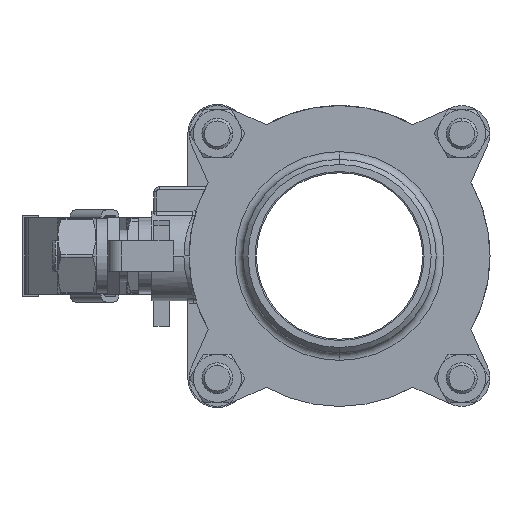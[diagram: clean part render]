
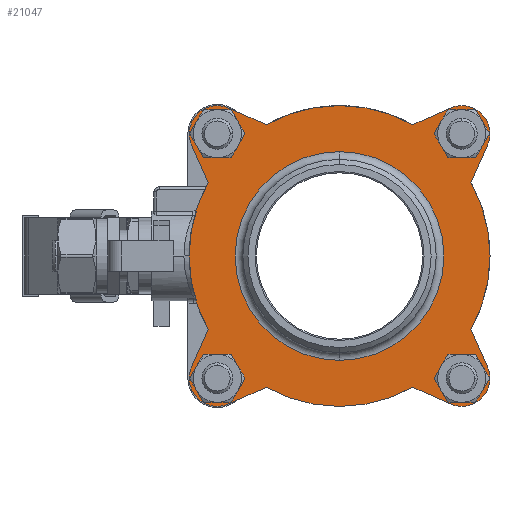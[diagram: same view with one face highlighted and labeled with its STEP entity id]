
A CAD part, left-side view. The second image highlights one B-rep face of the part: STEP entity #21047.
In plain terms, the highlighted planar face has unit normal (-1, 0, 0) as drawn and (0, 0, 1) by its records, which use the part's own axes.
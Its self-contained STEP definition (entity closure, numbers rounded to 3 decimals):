
#20302=CARTESIAN_POINT('',(-47.73,47.73,12.));
#20303=DIRECTION('',(0.,0.,-1.));
#20304=DIRECTION('',(1.,0.,0.));
#20305=AXIS2_PLACEMENT_3D('',#20302,#20303,#20304);
#20307=CARTESIAN_POINT('',(-47.73,47.73,12.));
#20308=DIRECTION('',(0.,0.,-1.));
#20309=DIRECTION('',(-1.,0.,0.));
#20310=AXIS2_PLACEMENT_3D('',#20307,#20308,#20309);
#20312=CARTESIAN_POINT('',(-47.73,-47.73,12.));
#20313=DIRECTION('',(0.,0.,-1.));
#20314=DIRECTION('',(1.,0.,0.));
#20315=AXIS2_PLACEMENT_3D('',#20312,#20313,#20314);
#20317=CARTESIAN_POINT('',(-47.73,-47.73,12.));
#20318=DIRECTION('',(0.,0.,-1.));
#20319=DIRECTION('',(-1.,0.,0.));
#20320=AXIS2_PLACEMENT_3D('',#20317,#20318,#20319);
#20322=CARTESIAN_POINT('',(47.73,-47.73,12.));
#20323=DIRECTION('',(0.,0.,-1.));
#20324=DIRECTION('',(1.,0.,0.));
#20325=AXIS2_PLACEMENT_3D('',#20322,#20323,#20324);
#20327=CARTESIAN_POINT('',(47.73,-47.73,12.));
#20328=DIRECTION('',(0.,0.,-1.));
#20329=DIRECTION('',(-1.,0.,0.));
#20330=AXIS2_PLACEMENT_3D('',#20327,#20328,#20329);
#20332=CARTESIAN_POINT('',(47.73,47.73,12.));
#20333=DIRECTION('',(0.,0.,-1.));
#20334=DIRECTION('',(1.,0.,0.));
#20335=AXIS2_PLACEMENT_3D('',#20332,#20333,#20334);
#20337=CARTESIAN_POINT('',(47.73,47.73,12.));
#20338=DIRECTION('',(0.,0.,-1.));
#20339=DIRECTION('',(-1.,0.,0.));
#20340=AXIS2_PLACEMENT_3D('',#20337,#20338,#20339);
#20342=CARTESIAN_POINT('',(0.,0.,12.));
#20343=DIRECTION('',(0.,0.,1.));
#20344=DIRECTION('',(-0.873,0.488,0.));
#20345=AXIS2_PLACEMENT_3D('',#20342,#20343,#20344);
#20347=DIRECTION('',(0.406,-0.914,0.));
#20348=VECTOR('',#20347,15.98);
#20349=CARTESIAN_POINT('',(-57.78,43.259,12.));
#20350=LINE('',#20349,#20348);
#20351=CARTESIAN_POINT('',(-47.73,47.73,12.));
#20352=DIRECTION('',(0.,0.,1.));
#20353=DIRECTION('',(0.406,0.914,0.));
#20354=AXIS2_PLACEMENT_3D('',#20351,#20352,#20353);
#20356=DIRECTION('',(-0.914,0.406,0.));
#20357=VECTOR('',#20356,15.98);
#20358=CARTESIAN_POINT('',(-28.659,51.286,12.));
#20359=LINE('',#20358,#20357);
#20360=CARTESIAN_POINT('',(0.,0.,12.));
#20361=DIRECTION('',(0.,0.,1.));
#20362=DIRECTION('',(0.488,0.873,0.));
#20363=AXIS2_PLACEMENT_3D('',#20360,#20361,#20362);
#20365=DIRECTION('',(-0.914,-0.406,0.));
#20366=VECTOR('',#20365,15.98);
#20367=CARTESIAN_POINT('',(43.259,57.78,12.));
#20368=LINE('',#20367,#20366);
#20369=CARTESIAN_POINT('',(47.73,47.73,12.));
#20370=DIRECTION('',(0.,0.,1.));
#20371=DIRECTION('',(0.914,-0.406,0.));
#20372=AXIS2_PLACEMENT_3D('',#20369,#20370,#20371);
#20374=DIRECTION('',(0.406,0.914,0.));
#20375=VECTOR('',#20374,15.98);
#20376=CARTESIAN_POINT('',(51.286,28.659,12.));
#20377=LINE('',#20376,#20375);
#20378=CARTESIAN_POINT('',(0.,0.,12.));
#20379=DIRECTION('',(0.,0.,1.));
#20380=DIRECTION('',(0.873,-0.488,0.));
#20381=AXIS2_PLACEMENT_3D('',#20378,#20379,#20380);
#20383=DIRECTION('',(-0.406,0.914,0.));
#20384=VECTOR('',#20383,15.98);
#20385=CARTESIAN_POINT('',(57.78,-43.259,12.));
#20386=LINE('',#20385,#20384);
#20387=CARTESIAN_POINT('',(47.73,-47.73,12.));
#20388=DIRECTION('',(0.,0.,1.));
#20389=DIRECTION('',(-0.406,-0.914,0.));
#20390=AXIS2_PLACEMENT_3D('',#20387,#20388,#20389);
#20392=DIRECTION('',(0.914,-0.406,0.));
#20393=VECTOR('',#20392,15.98);
#20394=CARTESIAN_POINT('',(28.659,-51.286,12.));
#20395=LINE('',#20394,#20393);
#20396=CARTESIAN_POINT('',(0.,0.,12.));
#20397=DIRECTION('',(0.,0.,1.));
#20398=DIRECTION('',(-0.488,-0.873,0.));
#20399=AXIS2_PLACEMENT_3D('',#20396,#20397,#20398);
#20401=DIRECTION('',(0.914,0.406,0.));
#20402=VECTOR('',#20401,15.98);
#20403=CARTESIAN_POINT('',(-43.259,-57.78,12.));
#20404=LINE('',#20403,#20402);
#20405=CARTESIAN_POINT('',(-47.73,-47.73,12.));
#20406=DIRECTION('',(0.,0.,1.));
#20407=DIRECTION('',(-0.914,0.406,0.));
#20408=AXIS2_PLACEMENT_3D('',#20405,#20406,#20407);
#20410=DIRECTION('',(-0.406,-0.914,0.));
#20411=VECTOR('',#20410,15.98);
#20412=CARTESIAN_POINT('',(-51.286,-28.659,12.));
#20413=LINE('',#20412,#20411);
#20414=CARTESIAN_POINT('',(0.,0.,12.));
#20415=DIRECTION('',(0.,0.,1.));
#20416=DIRECTION('',(1.,0.,0.));
#20417=AXIS2_PLACEMENT_3D('',#20414,#20415,#20416);
#20419=CARTESIAN_POINT('',(0.,0.,12.));
#20420=DIRECTION('',(0.,0.,1.));
#20421=DIRECTION('',(-1.,0.,0.));
#20422=AXIS2_PLACEMENT_3D('',#20419,#20420,#20421);
#20702=CARTESIAN_POINT('',(40.75,0.,12.));
#20703=CARTESIAN_POINT('',(-40.75,0.,12.));
#20704=VERTEX_POINT('',#20702);
#20705=VERTEX_POINT('',#20703);
#20730=CARTESIAN_POINT('',(-41.23,47.73,12.));
#20731=CARTESIAN_POINT('',(-54.23,47.73,12.));
#20732=VERTEX_POINT('',#20730);
#20733=VERTEX_POINT('',#20731);
#20734=CARTESIAN_POINT('',(-41.23,-47.73,12.));
#20735=CARTESIAN_POINT('',(-54.23,-47.73,12.));
#20736=VERTEX_POINT('',#20734);
#20737=VERTEX_POINT('',#20735);
#20738=CARTESIAN_POINT('',(54.23,-47.73,12.));
#20739=CARTESIAN_POINT('',(41.23,-47.73,12.));
#20740=VERTEX_POINT('',#20738);
#20741=VERTEX_POINT('',#20739);
#20742=CARTESIAN_POINT('',(54.23,47.73,12.));
#20743=CARTESIAN_POINT('',(41.23,47.73,12.));
#20744=VERTEX_POINT('',#20742);
#20745=VERTEX_POINT('',#20743);
#20746=CARTESIAN_POINT('',(-51.286,28.659,12.));
#20747=CARTESIAN_POINT('',(-51.286,-28.659,12.));
#20748=VERTEX_POINT('',#20746);
#20749=VERTEX_POINT('',#20747);
#20750=CARTESIAN_POINT('',(-57.78,-43.259,12.));
#20751=VERTEX_POINT('',#20750);
#20752=CARTESIAN_POINT('',(-43.259,-57.78,12.));
#20753=VERTEX_POINT('',#20752);
#20754=CARTESIAN_POINT('',(-28.659,-51.286,12.));
#20755=VERTEX_POINT('',#20754);
#20756=CARTESIAN_POINT('',(28.659,-51.286,12.));
#20757=VERTEX_POINT('',#20756);
#20758=CARTESIAN_POINT('',(43.259,-57.78,12.));
#20759=VERTEX_POINT('',#20758);
#20760=CARTESIAN_POINT('',(57.78,-43.259,12.));
#20761=VERTEX_POINT('',#20760);
#20762=CARTESIAN_POINT('',(51.286,-28.659,12.));
#20763=VERTEX_POINT('',#20762);
#20764=CARTESIAN_POINT('',(51.286,28.659,12.));
#20765=VERTEX_POINT('',#20764);
#20766=CARTESIAN_POINT('',(57.78,43.259,12.));
#20767=VERTEX_POINT('',#20766);
#20768=CARTESIAN_POINT('',(43.259,57.78,12.));
#20769=VERTEX_POINT('',#20768);
#20770=CARTESIAN_POINT('',(28.659,51.286,12.));
#20771=VERTEX_POINT('',#20770);
#20772=CARTESIAN_POINT('',(-28.659,51.286,12.));
#20773=VERTEX_POINT('',#20772);
#20774=CARTESIAN_POINT('',(-43.259,57.78,12.));
#20775=VERTEX_POINT('',#20774);
#20776=CARTESIAN_POINT('',(-57.78,43.259,12.));
#20777=VERTEX_POINT('',#20776);
#20983=CARTESIAN_POINT('',(0.,0.,12.));
#20984=DIRECTION('',(0.,0.,1.));
#20985=DIRECTION('',(1.,0.,0.));
#20986=AXIS2_PLACEMENT_3D('',#20983,#20984,#20985);
#20987=PLANE('',#20986);
#20989=ORIENTED_EDGE('',*,*,#20988,.F.);
#20991=ORIENTED_EDGE('',*,*,#20990,.F.);
#20993=ORIENTED_EDGE('',*,*,#20992,.F.);
#20995=ORIENTED_EDGE('',*,*,#20994,.F.);
#20996=ORIENTED_EDGE('',*,*,#20851,.F.);
#20998=ORIENTED_EDGE('',*,*,#20997,.F.);
#21000=ORIENTED_EDGE('',*,*,#20999,.F.);
#21001=ORIENTED_EDGE('',*,*,#20976,.F.);
#21002=ORIENTED_EDGE('',*,*,#20843,.F.);
#21004=ORIENTED_EDGE('',*,*,#21003,.F.);
#21006=ORIENTED_EDGE('',*,*,#21005,.F.);
#21007=ORIENTED_EDGE('',*,*,#20879,.F.);
#21008=ORIENTED_EDGE('',*,*,#20866,.F.);
#21010=ORIENTED_EDGE('',*,*,#21009,.F.);
#21012=ORIENTED_EDGE('',*,*,#21011,.F.);
#21014=ORIENTED_EDGE('',*,*,#21013,.F.);
#21015=EDGE_LOOP('',(#20989,#20991,#20993,#20995,#20996,#20998,#21000,#21001,
#21002,#21004,#21006,#21007,#21008,#21010,#21012,#21014));
#21016=FACE_OUTER_BOUND('',#21015,.F.);
#21018=ORIENTED_EDGE('',*,*,#21017,.F.);
#21020=ORIENTED_EDGE('',*,*,#21019,.F.);
#21021=EDGE_LOOP('',(#21018,#21020));
#21022=FACE_BOUND('',#21021,.F.);
#21024=ORIENTED_EDGE('',*,*,#21023,.F.);
#21026=ORIENTED_EDGE('',*,*,#21025,.F.);
#21027=EDGE_LOOP('',(#21024,#21026));
#21028=FACE_BOUND('',#21027,.F.);
#21030=ORIENTED_EDGE('',*,*,#21029,.F.);
#21032=ORIENTED_EDGE('',*,*,#21031,.F.);
#21033=EDGE_LOOP('',(#21030,#21032));
#21034=FACE_BOUND('',#21033,.F.);
#21036=ORIENTED_EDGE('',*,*,#21035,.F.);
#21038=ORIENTED_EDGE('',*,*,#21037,.F.);
#21039=EDGE_LOOP('',(#21036,#21038));
#21040=FACE_BOUND('',#21039,.F.);
#21042=ORIENTED_EDGE('',*,*,#21041,.T.);
#21044=ORIENTED_EDGE('',*,*,#21043,.T.);
#21045=EDGE_LOOP('',(#21042,#21044));
#21046=FACE_BOUND('',#21045,.F.);
#21047=ADVANCED_FACE('',(#21016,#21022,#21028,#21034,#21040,#21046),#20987,.T.);
#20306=CIRCLE('',#20305,6.5);
#20311=CIRCLE('',#20310,6.5);
#20316=CIRCLE('',#20315,6.5);
#20321=CIRCLE('',#20320,6.5);
#20326=CIRCLE('',#20325,6.5);
#20331=CIRCLE('',#20330,6.5);
#20336=CIRCLE('',#20335,6.5);
#20341=CIRCLE('',#20340,6.5);
#20346=CIRCLE('',#20345,58.75);
#20355=CIRCLE('',#20354,11.);
#20364=CIRCLE('',#20363,58.75);
#20373=CIRCLE('',#20372,11.);
#20382=CIRCLE('',#20381,58.75);
#20391=CIRCLE('',#20390,11.);
#20400=CIRCLE('',#20399,58.75);
#20409=CIRCLE('',#20408,11.);
#20418=CIRCLE('',#20417,40.75);
#20423=CIRCLE('',#20422,40.75);
#20843=EDGE_CURVE('',#20763,#20765,#20382,.T.);
#20851=EDGE_CURVE('',#20771,#20773,#20364,.T.);
#20866=EDGE_CURVE('',#20755,#20757,#20400,.T.);
#20879=EDGE_CURVE('',#20757,#20759,#20395,.T.);
#20976=EDGE_CURVE('',#20765,#20767,#20377,.T.);
#20988=EDGE_CURVE('',#20748,#20749,#20346,.T.);
#20990=EDGE_CURVE('',#20777,#20748,#20350,.T.);
#20992=EDGE_CURVE('',#20775,#20777,#20355,.T.);
#20994=EDGE_CURVE('',#20773,#20775,#20359,.T.);
#20997=EDGE_CURVE('',#20769,#20771,#20368,.T.);
#20999=EDGE_CURVE('',#20767,#20769,#20373,.T.);
#21003=EDGE_CURVE('',#20761,#20763,#20386,.T.);
#21005=EDGE_CURVE('',#20759,#20761,#20391,.T.);
#21009=EDGE_CURVE('',#20753,#20755,#20404,.T.);
#21011=EDGE_CURVE('',#20751,#20753,#20409,.T.);
#21013=EDGE_CURVE('',#20749,#20751,#20413,.T.);
#21017=EDGE_CURVE('',#20736,#20737,#20316,.T.);
#21019=EDGE_CURVE('',#20737,#20736,#20321,.T.);
#21023=EDGE_CURVE('',#20740,#20741,#20326,.T.);
#21025=EDGE_CURVE('',#20741,#20740,#20331,.T.);
#21029=EDGE_CURVE('',#20744,#20745,#20336,.T.);
#21031=EDGE_CURVE('',#20745,#20744,#20341,.T.);
#21035=EDGE_CURVE('',#20732,#20733,#20306,.T.);
#21037=EDGE_CURVE('',#20733,#20732,#20311,.T.);
#21041=EDGE_CURVE('',#20704,#20705,#20418,.T.);
#21043=EDGE_CURVE('',#20705,#20704,#20423,.T.);
